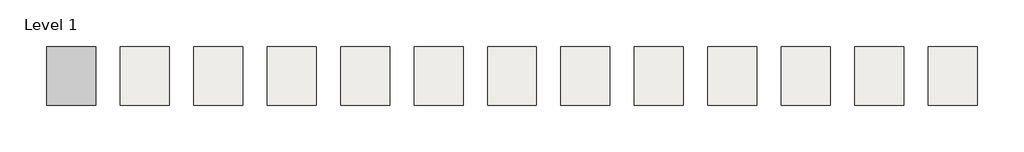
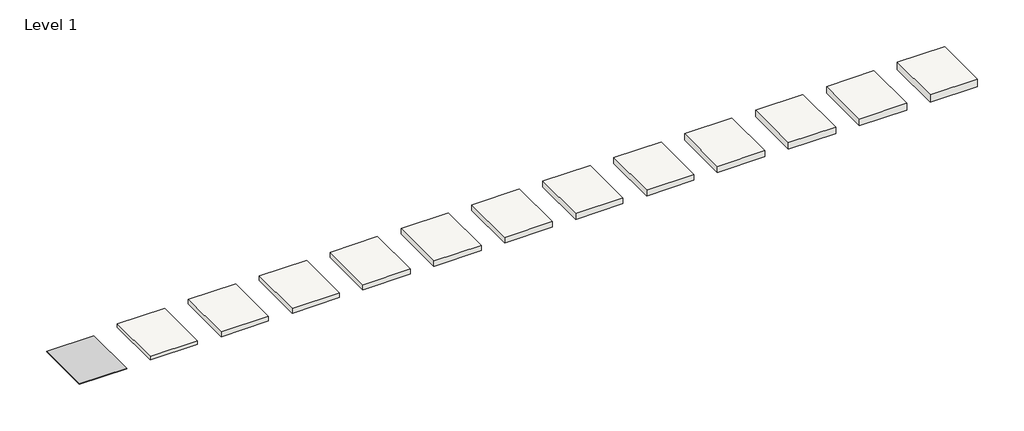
# One storey, incomplete: 12 roofs, 1 plate.
"""IFC4 building model written with IfcOpenShell, lengths in millimetres."""

import ifcopenshell
import ifcopenshell.guid

model = None  # the IFC model being written
_history = None  # IfcOwnerHistory: only IFC2X3 demands one
_inside = {}  # id of a spatial element -> (the spatial element, [elements in it])
_under = {}  # id of a project, library or spatial element -> (it, [spatial elements below it])
_declared = {}  # id of a project -> (the project, [libraries it declares])
_typed = {}  # id of a type object -> (the type object, [elements of that type])
_made_of = {}  # id of a material, layer set ... -> (it, [elements and type objects made of it])


def new_model(schema):
    """Start an empty IFC model of exactly this schema.

    Asked for "IFC4X3", IfcOpenShell would pick the latest addendum, in which some entities
    have other attributes; the version numbers below select the first issue.
    IFC2X3 requires an IfcOwnerHistory on every rooted entity: one is made here for all.
    """
    global model, _history
    if schema == "IFC4X3":
        model = ifcopenshell.file(schema_version=(4, 3, 0, 0))
    else:
        model = ifcopenshell.file(schema=schema)
    _inside.clear()
    _under.clear()
    _declared.clear()
    _typed.clear()
    _made_of.clear()
    _history = None
    if model.schema == "IFC2X3":
        org = make("IfcOrganization", Name="unknown")
        user = make(
            "IfcPersonAndOrganization",
            ThePerson=make("IfcPerson", FamilyName="unknown"),
            TheOrganization=org,
        )
        app = make(
            "IfcApplication",
            ApplicationDeveloper=org,
            Version="unknown",
            ApplicationFullName="unknown",
            ApplicationIdentifier="unknown",
        )
        _history = make(
            "IfcOwnerHistory",
            OwningUser=user,
            OwningApplication=app,
            ChangeAction="ADDED",
            CreationDate=0,
        )
    return model


def make(cls, **values):
    """One entity of the class cls with the attributes given. An attribute that is None is left unset."""
    return model.create_entity(
        cls, **{name: value for name, value in values.items() if value is not None}
    )


def rooted(cls, **values):
    """An entity with a GlobalId (a new one), such as an element, a storey or a relation."""
    return make(cls, GlobalId=ifcopenshell.guid.new(), OwnerHistory=_history, **values)


def si_unit(unit_type, name, prefix=None):
    """IfcSIUnit, for example si_unit("LENGTHUNIT", "METRE", prefix="MILLI")."""
    return make("IfcSIUnit", UnitType=unit_type, Prefix=prefix, Name=name)


def assignment(units):
    """IfcUnitAssignment: the units of a project."""
    return None if units is None else make("IfcUnitAssignment", Units=units)


def point(xyz):
    """IfcCartesianPoint."""
    return None if xyz is None else make("IfcCartesianPoint", Coordinates=xyz)


def direction(xyz):
    """IfcDirection."""
    return None if xyz is None else make("IfcDirection", DirectionRatios=xyz)


def frame(location, z_axis=None, x_axis=None):
    """IfcAxis2Placement3D, a coordinate frame: its origin and axes. An axis left out is left unset."""
    return make(
        "IfcAxis2Placement3D",
        Location=point(location),
        Axis=direction(z_axis),
        RefDirection=direction(x_axis),
    )


def origin():
    """The frame at (0, 0, 0) with its axes left unset."""
    return frame((0.0, 0.0, 0.0))


def origin_with_axes():
    """The frame at (0, 0, 0) with the z axis (0, 0, 1) and the x axis (1, 0, 0) written out."""
    return frame((0.0, 0.0, 0.0), z_axis=(0.0, 0.0, 1.0), x_axis=(1.0, 0.0, 0.0))


def place(relative_to, where):
    """IfcLocalPlacement: puts the frame where relative to a parent placement (None: the world)."""
    return make(
        "IfcLocalPlacement", PlacementRelTo=relative_to, RelativePlacement=where
    )


def context(
    kind, dimensions, precision=None, world=None, true_north=None, identifier=None
):
    """IfcGeometricRepresentationContext, for example the 3D "Model" context."""
    return make(
        "IfcGeometricRepresentationContext",
        ContextIdentifier=identifier,
        ContextType=kind,
        CoordinateSpaceDimension=dimensions,
        Precision=precision,
        WorldCoordinateSystem=world,
        TrueNorth=true_north,
    )


def project(units=None, contexts=None):
    """IfcProject with its units and contexts."""
    return rooted(
        "IfcProject",
        Name="project",
        RepresentationContexts=contexts,
        UnitsInContext=assignment(units),
    )


def spatial(cls, under=None, at=None, **own):
    """A site, building, storey or space (cls), placed at a placement, below another one or the project."""
    s = rooted(cls, ObjectPlacement=at, **own)
    if under is not None:
        _under.setdefault(under.id(), (under, []))[1].append(s)
    return s


def polyline(points):
    """IfcPolyline through the points."""
    return make("IfcPolyline", Points=[point(p) for p in points])


def outline(outer, holes=None, kind="AREA"):
    """IfcArbitraryClosedProfileDef: a profile drawn as a closed curve; with holes, ...WithVoids."""
    if holes is None:
        return make("IfcArbitraryClosedProfileDef", ProfileType=kind, OuterCurve=outer)
    return make(
        "IfcArbitraryProfileDefWithVoids",
        ProfileType=kind,
        OuterCurve=outer,
        InnerCurves=holes,
    )


def extrude(swept, where, along, depth):
    """IfcExtrudedAreaSolid: the profile swept, set in the frame where, extruded along a direction by depth."""
    return make(
        "IfcExtrudedAreaSolid",
        SweptArea=swept,
        Position=where,
        ExtrudedDirection=direction(along),
        Depth=depth,
    )


def shape(context_of_items, identifier, shape_type, items):
    """IfcShapeRepresentation: the items that make up one representation, for example the "Body"."""
    return make(
        "IfcShapeRepresentation",
        ContextOfItems=context_of_items,
        RepresentationIdentifier=identifier,
        RepresentationType=shape_type,
        Items=items,
    )


def source(mapping_origin, context_of_items, identifier, shape_type, items):
    """IfcRepresentationMap: a shape defined once, which mapped items show again and again."""
    return make(
        "IfcRepresentationMap",
        MappingOrigin=mapping_origin,
        MappedRepresentation=shape(context_of_items, identifier, shape_type, items),
    )


def transform(
    local_origin,
    x_axis=None,
    y_axis=None,
    z_axis=None,
    scale=None,
    scale2=None,
    scale3=None,
    uniform=True,
):
    """IfcCartesianTransformationOperator3D, or its non-uniform kind. x_axis, y_axis, z_axis: its Axis1, 2, 3."""
    if uniform:
        return make(
            "IfcCartesianTransformationOperator3D",
            Axis1=direction(x_axis),
            Axis2=direction(y_axis),
            LocalOrigin=point(local_origin),
            Scale=scale,
            Axis3=direction(z_axis),
        )
    return make(
        "IfcCartesianTransformationOperator3DnonUniform",
        Axis1=direction(x_axis),
        Axis2=direction(y_axis),
        LocalOrigin=point(local_origin),
        Scale=scale,
        Axis3=direction(z_axis),
        Scale2=scale2,
        Scale3=scale3,
    )


def mapped(mapping_source, mapping_target):
    """IfcMappedItem: shows the shape of a source again, moved by a transform."""
    return make(
        "IfcMappedItem", MappingSource=mapping_source, MappingTarget=mapping_target
    )


def made_of(thing, what):
    """Note that an element or type object is made of a material, layer set ...; save() writes the relation."""
    if what is not None:
        _made_of.setdefault(what.id(), (what, []))[1].append(thing)
    return thing


def element(
    cls,
    number,
    at=None,
    inside=None,
    cuts=None,
    type_object=None,
    material=None,
    context=None,
    identifier="Body",
    shape_type=None,
    held_by="IfcProductDefinitionShape",
    body=None,
    shapes=None,
    **own,
):
    """One element of the class cls, such as IfcWall. Its Tag is "e" and its number.

    at: its placement. inside: the storey or other place that contains it. cuts: it is an
    opening in that element (IfcRelVoidsElement). A single representation is given by context,
    identifier, shape_type and body (its items); several are given by shapes. held_by: the class
    of the entity that holds the representations. save() writes the other relations.
    """
    e = rooted(cls, Tag="e%d" % number, ObjectPlacement=at, **own)
    if body is not None:
        shapes = [shape(context, identifier, shape_type, body)]
    if shapes is not None:
        e.Representation = make(held_by, Representations=shapes)
    if inside is not None:
        _inside.setdefault(inside.id(), (inside, []))[1].append(e)
    if cuts is not None:
        rooted(
            "IfcRelVoidsElement", RelatingBuildingElement=cuts, RelatedOpeningElement=e
        )
    if type_object is not None:
        _typed.setdefault(type_object.id(), (type_object, []))[1].append(e)
    return made_of(e, material)


def aggregate(whole, parts):
    """IfcRelAggregates: a whole, such as a stair, and the parts it consists of."""
    return rooted("IfcRelAggregates", RelatingObject=whole, RelatedObjects=parts)


def save(model, path):
    """Write the relations noted so far, then the file.

    IfcRelAggregates (storeys below a building ...), IfcRelContainedInSpatialStructure (elements
    in a storey), IfcRelDefinesByType, IfcRelAssociatesMaterial and IfcRelDeclares: one each for
    every whole, place, type object, material and project.
    """
    for whole, parts in _under.values():
        aggregate(whole, parts)
    for where, things in _inside.values():
        rooted(
            "IfcRelContainedInSpatialStructure",
            RelatedElements=things,
            RelatingStructure=where,
        )
    for kind, things in _typed.values():
        rooted("IfcRelDefinesByType", RelatedObjects=things, RelatingType=kind)
    for what, things in _made_of.values():
        rooted("IfcRelAssociatesMaterial", RelatedObjects=things, RelatingMaterial=what)
    for by, libraries in _declared.values():
        rooted("IfcRelDeclares", RelatingContext=by, RelatedDefinitions=libraries)
    model.write(path)


def system_panel_glazed_528b41a4(model_context):
    return source(origin(), model_context, "Body", "SweptSolid", [
        extrude(outline(polyline([(1270.0, 24.5), (-1270.0, 24.5), (-1270.0, 49.5), (1270.0, 49.5), (1270.0, 24.5)])), origin_with_axes(), (0.0, 0.0, 1.0), 3048.0),
    ])


model = new_model("IFC4")

# Units and contexts
model_context = context("Model", 3, world=origin())
ifc_project = project(units=[si_unit("LENGTHUNIT", "METRE", prefix="MILLI")], contexts=[model_context])

# Site, building, storey
site = spatial("IfcSite", under=ifc_project)
building = spatial("IfcBuilding", under=site)
storey = spatial("IfcBuildingStorey", under=building, Name="Level 1", Elevation=4000.0)

# Plate
placement = place(None, origin())
system_panel_glazed_shape = system_panel_glazed_528b41a4(model_context)
element("IfcPlate", 1, ObjectType="System Panel : Glazed", at=placement, inside=storey, context=model_context, shape_type="MappedRepresentation", body=[
    mapped(system_panel_glazed_shape, transform((-19669.3679784, 4719.5836599, 4000.0), x_axis=(-1.0, 0.0, 0.0), y_axis=(0.0, 0.0, -1.0), z_axis=(0.0, -1.0, 0.0))),
])

# Roofs
element("IfcRoof", 2, ObjectType="AAP_Basic Roof", at=placement, inside=storey, context=model_context, shape_type="SweptSolid", body=[
    extrude(outline(polyline([(-17129.3679784, 4719.5836599), (-14589.3679784, 4719.5836599), (-14589.3679784, 1671.5836599), (-17129.3679784, 1671.5836599), (-17129.3679784, 4719.5836599)])), frame((0.0, 0.0, 4000.0), z_axis=(0.0, 0.0, 1.0), x_axis=(1.0, 0.0, 0.0)), (0.0, 0.0, 1.0), 212.5265625),
])
element("IfcRoof", 3, ObjectType="AAP_Roof_Flat-1.5\" Fiberglass Batt", at=placement, inside=storey, context=model_context, shape_type="SweptSolid", body=[
    extrude(outline(polyline([(-13319.3679784, 4719.5836599), (-10779.3679784, 4719.5836599), (-10779.3679784, 1671.5836599), (-13319.3679784, 1671.5836599), (-13319.3679784, 4719.5836599)])), frame((0.0, 0.0, 4000.0), z_axis=(0.0, 0.0, 1.0), x_axis=(1.0, 0.0, 0.0)), (0.0, 0.0, 1.0), 258.5640625),
])
element("IfcRoof", 4, ObjectType="AAP_Roof_Flat-2.0\" Fiberglass Batt", at=placement, inside=storey, context=model_context, shape_type="SweptSolid", body=[
    extrude(outline(polyline([(-9509.3679784, 4719.5836599), (-6969.3679784, 4719.5836599), (-6969.3679784, 1671.5836599), (-9509.3679784, 1671.5836599), (-9509.3679784, 4719.5836599)])), frame((0.0, 0.0, 4000.0), z_axis=(0.0, 0.0, 1.0), x_axis=(1.0, 0.0, 0.0)), (0.0, 0.0, 1.0), 271.2640625),
])
element("IfcRoof", 5, ObjectType="AAP_Roof_Flat-2.5\" Fiberglass Batt 2", at=placement, inside=storey, context=model_context, shape_type="SweptSolid", body=[
    extrude(outline(polyline([(-5699.3679784, 4719.5836599), (-3159.3679784, 4719.5836599), (-3159.3679784, 1671.5836599), (-5699.3679784, 1671.5836599), (-5699.3679784, 4719.5836599)])), frame((0.0, 0.0, 4000.0), z_axis=(0.0, 0.0, 1.0), x_axis=(1.0, 0.0, 0.0)), (0.0, 0.0, 1.0), 283.9640625),
])
element("IfcRoof", 6, ObjectType="AAP_Roof_Flat-3.0\" Fiberglass Batt", at=placement, inside=storey, context=model_context, shape_type="SweptSolid", body=[
    extrude(outline(polyline([(-1889.3679784, 4719.5836599), (650.6320216, 4719.5836599), (650.6320216, 1671.5836599), (-1889.3679784, 1671.5836599), (-1889.3679784, 4719.5836599)])), frame((0.0, 0.0, 4000.0), z_axis=(0.0, 0.0, 1.0), x_axis=(1.0, 0.0, 0.0)), (0.0, 0.0, 1.0), 296.6640625),
])
element("IfcRoof", 7, ObjectType="AAP_Roof_Flat-3.5\" Fiberglass Batt", at=placement, inside=storey, context=model_context, shape_type="SweptSolid", body=[
    extrude(outline(polyline([(1920.6320216, 4719.5836599), (4460.6320216, 4719.5836599), (4460.6320216, 1671.5836599), (1920.6320216, 1671.5836599), (1920.6320216, 4719.5836599)])), frame((0.0, 0.0, 4000.0), z_axis=(0.0, 0.0, 1.0), x_axis=(1.0, 0.0, 0.0)), (0.0, 0.0, 1.0), 309.3640625),
])
element("IfcRoof", 8, ObjectType="AAP_Roof_Flat-4.0\" Fiberglass Batt", at=placement, inside=storey, context=model_context, shape_type="SweptSolid", body=[
    extrude(outline(polyline([(5730.6320216, 4719.5836599), (8270.6320216, 4719.5836599), (8270.6320216, 1671.5836599), (5730.6320216, 1671.5836599), (5730.6320216, 4719.5836599)])), frame((0.0, 0.0, 4000.0), z_axis=(0.0, 0.0, 1.0), x_axis=(1.0, 0.0, 0.0)), (0.0, 0.0, 1.0), 322.0640625),
])
element("IfcRoof", 9, ObjectType="AAP_Roof_Flat-4.5\" Fiberglass Batt", at=placement, inside=storey, context=model_context, shape_type="SweptSolid", body=[
    extrude(outline(polyline([(9540.6320216, 4719.5836599), (12080.6320216, 4719.5836599), (12080.6320216, 1671.5836599), (9540.6320216, 1671.5836599), (9540.6320216, 4719.5836599)])), frame((0.0, 0.0, 4000.0), z_axis=(0.0, 0.0, 1.0), x_axis=(1.0, 0.0, 0.0)), (0.0, 0.0, 1.0), 334.7640625),
])
element("IfcRoof", 10, ObjectType="AAP_Roof_Flat-5.0\" Fiberglass Batt", at=placement, inside=storey, context=model_context, shape_type="SweptSolid", body=[
    extrude(outline(polyline([(13350.6320216, 4719.5836599), (15890.6320216, 4719.5836599), (15890.6320216, 1671.5836599), (13350.6320216, 1671.5836599), (13350.6320216, 4719.5836599)])), frame((0.0, 0.0, 4000.0), z_axis=(0.0, 0.0, 1.0), x_axis=(1.0, 0.0, 0.0)), (0.0, 0.0, 1.0), 347.4640625),
])
element("IfcRoof", 11, ObjectType="AAP_Roof_Flat-5.5\" Fiberglass Batt", at=placement, inside=storey, context=model_context, shape_type="SweptSolid", body=[
    extrude(outline(polyline([(17160.6320216, 4719.5836599), (19700.6320216, 4719.5836599), (19700.6320216, 1671.5836599), (17160.6320216, 1671.5836599), (17160.6320216, 4719.5836599)])), frame((0.0, 0.0, 4000.0), z_axis=(0.0, 0.0, 1.0), x_axis=(1.0, 0.0, 0.0)), (0.0, 0.0, 1.0), 360.1640625),
])
element("IfcRoof", 12, ObjectType="AAP_Roof_Flat-6.0\" Fiberglass Batt", at=placement, inside=storey, context=model_context, shape_type="SweptSolid", body=[
    extrude(outline(polyline([(20970.6320216, 4719.5836599), (23510.6320216, 4719.5836599), (23510.6320216, 1671.5836599), (20970.6320216, 1671.5836599), (20970.6320216, 4719.5836599)])), frame((0.0, 0.0, 4000.0), z_axis=(0.0, 0.0, 1.0), x_axis=(1.0, 0.0, 0.0)), (0.0, 0.0, 1.0), 372.8640625),
])
element("IfcRoof", 13, ObjectType="AAP_Roof_Flat-8.0\" Fiberglass Batt", at=placement, inside=storey, context=model_context, shape_type="SweptSolid", body=[
    extrude(outline(polyline([(24780.6320216, 4719.5836599), (27320.6320216, 4719.5836599), (27320.6320216, 1671.5836599), (24780.6320216, 1671.5836599), (24780.6320216, 4719.5836599)])), frame((0.0, 0.0, 4000.0), z_axis=(0.0, 0.0, 1.0), x_axis=(1.0, 0.0, 0.0)), (0.0, 0.0, 1.0), 423.6640625),
])

save(model, "model.ifc")
